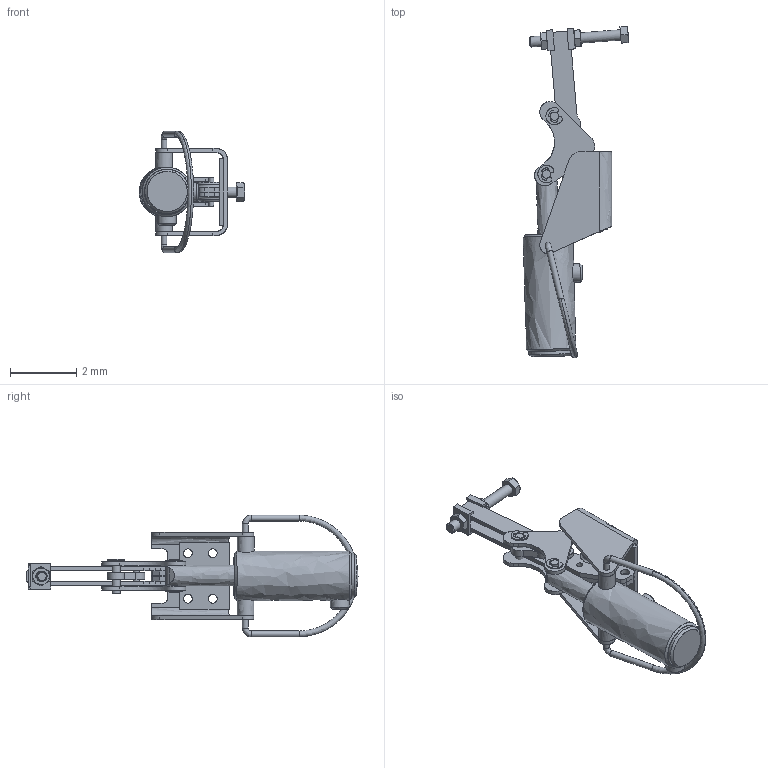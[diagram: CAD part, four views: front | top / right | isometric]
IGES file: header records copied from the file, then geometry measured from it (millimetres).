
Start section:  Autodesk DirectConnect version 7.0.27.0 ---- IGES version 5.3
Global section: file name: C:\Users\Nick\Desktop\AOV-201\3D\AOV-201 Open.igs; native system: Autodesk DirectConnect 7.0.27.0; preprocessor: 7.0.27.0; author: Nick; organization: Unknown; date: 20150522.123742; units: millimetre
Bounding box: 3.19 x 10.02 x 3.67 mm (x, y, z)
Surface area: 142.6 mm2 (no closed solid volume)
Topology: 0 solids, 0 shells, 442 faces, 3427 edges, 3412 vertices
Faces by surface type: bspline 442
